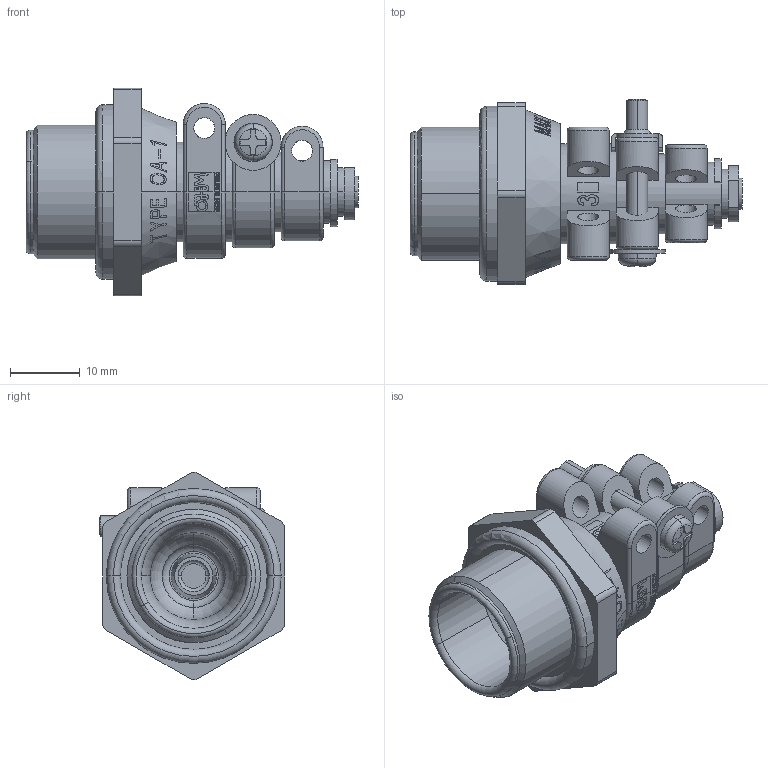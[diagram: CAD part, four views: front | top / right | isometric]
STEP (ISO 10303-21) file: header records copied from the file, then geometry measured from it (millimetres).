
FILE_DESCRIPTION(('Creo Elements/Direct Modeling STEP Export'),'2;1');
FILE_NAME('H06-0021-CL901-01_OA-1USU.stp','2022-09-12T11:39:28',(''),(''),'Creo Elements/Direct Modeling STEP processor for AP214 (Solid Model)','Creo Elements/Direct Modeling 20.3B 05-Dec-2020 (C) Parametric Technology GmbH','');
FILE_SCHEMA(('AUTOMOTIVE_DESIGN { 1 0 10303 214 1 1 1 1 }'));
Length unit declared in the file: millimetre
Products named in the file (4): Screw; Press nut; Body; OA-1USU
Assembly tree (3 placements, depth 2):
  OA-1USU
    Body
    Press nut
    Screw
Bounding box: 47.5 x 26.5 x 29.71 mm (x, y, z)
Volume: 8288.8 mm3; surface area: 7677 mm2
Topology: 3 solids, 4 shells, 304 faces, 1235 edges, 992 vertices
Faces by surface type: cylinder 132, plane 94, cone 46, torus 30, sphere 2
Entity records: 16145 total; most frequent: CARTESIAN_POINT 5058, ORIENTED_EDGE 2470, DIRECTION 2224, EDGE_CURVE 1235, VERTEX_POINT 992, AXIS2_PLACEMENT_3D 915, VECTOR 394, LINE 393
